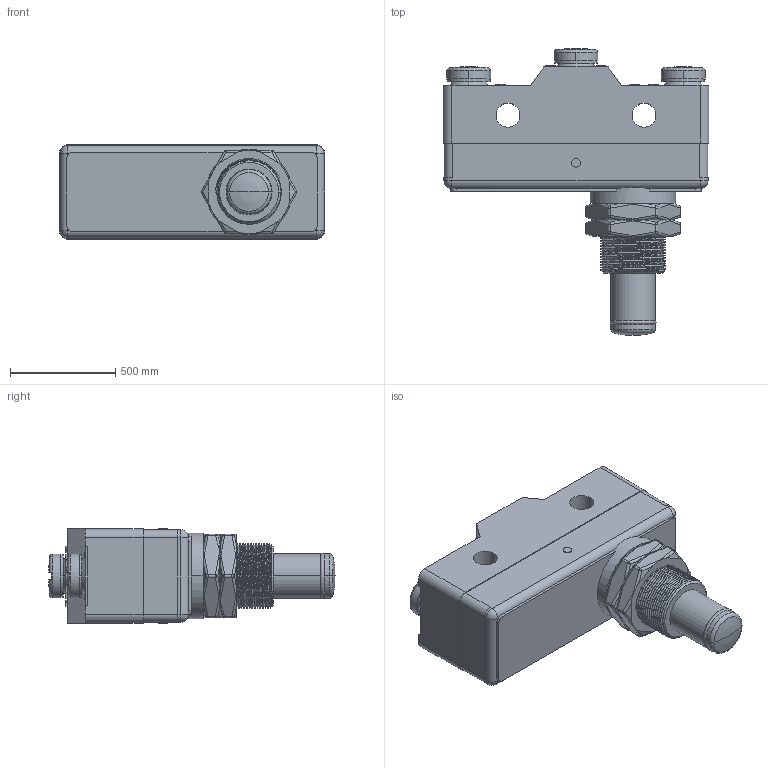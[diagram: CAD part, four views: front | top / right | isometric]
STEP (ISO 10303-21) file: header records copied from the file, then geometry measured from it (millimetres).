
FILE_DESCRIPTION((''),'2;1');
FILE_NAME('PRT0009','2016-08-13T',('ABS'),(''),'PRO/ENGINEER BY PARAMETRIC TECHNOLOGY CORPORATION, 2012360','PRO/ENGINEER BY PARAMETRIC TECHNOLOGY CORPORATION, 2012360','');
FILE_SCHEMA(('CONFIG_CONTROL_DESIGN'));
Products named in the file (1): PRT0009
Bounding box: 1259.84 x 1360.3 x 447.09 mm (x, y, z)
Volume: 237440394.4 mm3; surface area: 7165347.4 mm2
Topology: 3 solids, 6 shells, 1369 faces, 3800 edges, 2483 vertices
Faces by surface type: plane 940, cylinder 276, bspline 48, torus 48, sphere 45, cone 12
Entity records: 55649 total; most frequent: CARTESIAN_POINT 21329, ORIENTED_EDGE 7542, DIRECTION 6441, EDGE_CURVE 3771, VECTOR 2783, LINE 2783, VERTEX_POINT 2483, AXIS2_PLACEMENT_3D 1829
